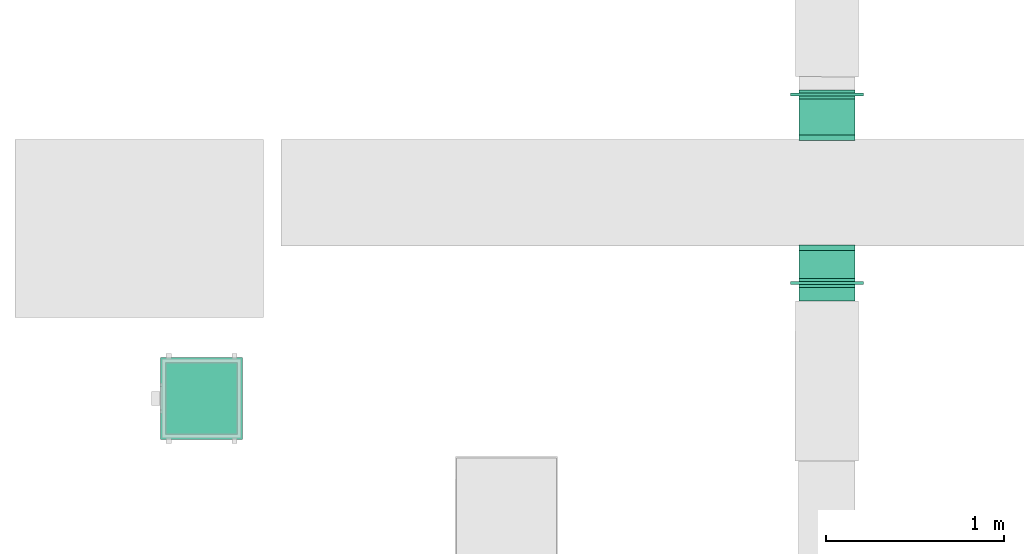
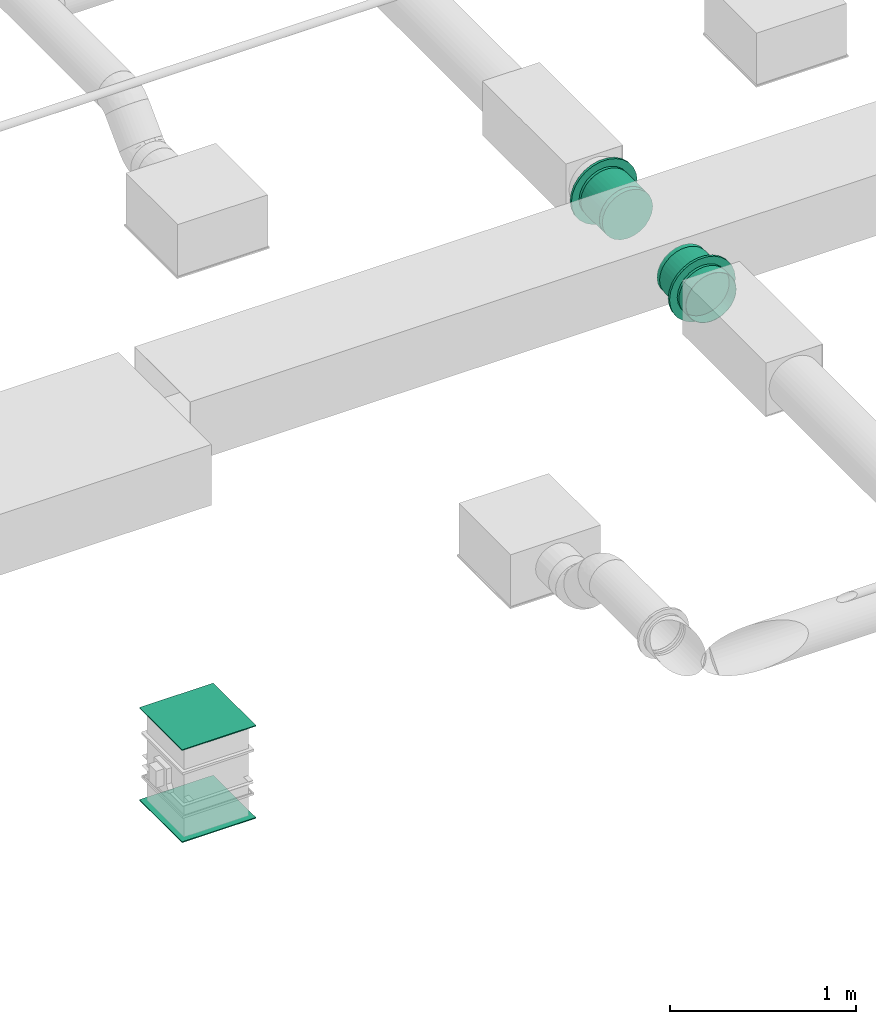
# One storey, part 24 of 63: 3 flow segments, 2 flow controllers, 2 flow fittings, 2 flow terminals.
"""IFC2X3 building model written with IfcOpenShell, lengths in millimetres."""

from ifc_helpers import new_model, entity, si_unit, converted_unit, derived_unit, direction, frame, origin_with_axes, origin_2d_with_axis, place, context, subcontext, project, spatial, hollow_circle, extrude, open_shell, surface_model, source, transform, mapped, type_object, element, save


model = new_model("IFC2X3")

# Units and contexts
model_context = context("Model", 3, precision=0.01, world=frame((0.0, 4.29681676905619e-09, 0.0)), true_north=direction((4.01073788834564e-13, 1.0)))
plan_context = context("Plan", 3, precision=0.01, world=frame((0.0, 4.29681676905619e-09, 0.0)), true_north=direction((4.01073788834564e-13, 1.0)))
body_context = subcontext(model_context, "Body", "Model", "MODEL_VIEW")
ifc_project = project(units=[converted_unit("PLANEANGLEUNIT", "DEGREE", entity("IfcPositiveLengthMeasure", 0.0174532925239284), si_unit("PLANEANGLEUNIT", "RADIAN"), dimensions=[0, 0, 0, 0, 0, 0, 0]), si_unit("AREAUNIT", "SQUARE_METRE"), si_unit("LENGTHUNIT", "METRE", prefix="MILLI"), si_unit("MASSUNIT", "GRAM", prefix="KILO"), si_unit("POWERUNIT", "WATT"), si_unit("PRESSUREUNIT", "PASCAL"), si_unit("FORCEUNIT", "NEWTON", prefix="KILO"), si_unit("ELECTRICVOLTAGEUNIT", "VOLT"), si_unit("ELECTRICCURRENTUNIT", "AMPERE"), si_unit("THERMODYNAMICTEMPERATUREUNIT", "DEGREE_CELSIUS"), si_unit("TIMEUNIT", "SECOND"), si_unit("VOLUMEUNIT", "CUBIC_METRE"), derived_unit("LINEARVELOCITYUNIT", [(si_unit("LENGTHUNIT", "METRE"), 1), (si_unit("TIMEUNIT", "SECOND"), -1)]), derived_unit("VOLUMETRICFLOWRATEUNIT", [(si_unit("VOLUMEUNIT", "CUBIC_METRE"), 1), (si_unit("TIMEUNIT", "SECOND"), -1)]), derived_unit("THERMALTRANSMITTANCEUNIT", [(si_unit("POWERUNIT", "WATT"), 1), (si_unit("THERMODYNAMICTEMPERATUREUNIT", "KELVIN"), -1), (si_unit("AREAUNIT", "SQUARE_METRE"), -1)]), derived_unit("SOUNDPRESSUREUNIT", [(si_unit("PRESSUREUNIT", "PASCAL"), 1)])], contexts=[model_context, plan_context])

# Site, building, storey
site_placement = place(None, frame((0.0, -4.29681676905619e-09, 0.0), z_axis=(0.0, 0.0, 1.0), x_axis=(1.0, 0.0, 0.0)))
site = spatial("IfcSite", under=ifc_project, at=site_placement, CompositionType="ELEMENT")
building_placement = place(site_placement, frame((0.0, 4.29681676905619e-09, 0.0), z_axis=(0.0, 0.0, 1.0), x_axis=(1.0, 0.0, 0.0)))
building = spatial("IfcBuilding", under=site, at=building_placement, Name="mc-building", CompositionType="ELEMENT")
storey_placement = place(building_placement, frame((0.0, 0.0, 210900.0), z_axis=(0.0, 0.0, 1.0), x_axis=(1.0, 0.0, 0.0)))
storey = spatial("IfcBuildingStorey", under=building, at=storey_placement, Name="Nivå F", CompositionType="ELEMENT", Elevation=210900.0)

# Flow controllers
damper_type = type_object("IfcDamperType", Name="IRIS-031", PredefinedType="BALANCINGDAMPER")
shared_shape_1 = source(origin_with_axes(), body_context, "Body", "SurfaceModel", [
    surface_model("IfcShellBasedSurfaceModel", [(26.0, 78.75, -136.39901), (26.0, 0.0, -157.5), (26.0, 40.764, -152.13332), (26.0, 111.36932, -111.36932), (26.0, -111.36932, -111.36932), (26.0, 152.13332, 40.764), (26.0, 152.13332, -40.764), (26.0, 136.39901, -78.75), (26.0, -78.75, -136.39901), (26.0, -40.764, -152.13332), (26.0, -152.13332, -40.764), (26.0, -136.39901, -78.75), (26.0, 0.0, 157.5), (26.0, 157.5, 0.0), (26.0, 136.39901, 78.75), (26.0, 111.36932, 111.36932), (26.0, 78.75, 136.39901), (26.0, 40.764, 152.13332), (26.0, -40.764, 152.13332), (26.0, -152.13332, 40.764), (26.0, -136.39901, 78.75), (26.0, -157.5, 0.0), (26.0, -78.75, 136.39901), (26.0, -111.36932, 111.36932), (7.8, 0.0, 157.5), (7.8, 40.764, 152.13332), (7.8, 78.75, 136.39901), (7.8, 152.13332, 40.764), (7.8, 111.36932, 111.36932), (7.8, 136.39901, 78.75), (7.8, -152.13332, 40.764), (7.8, -78.75, 136.39901), (7.8, -136.39901, 78.75), (7.8, -111.36932, 111.36932), (7.8, -40.764, 152.13332), (7.8, -111.36932, -111.36932), (7.8, -157.5, 0.0), (7.8, 152.13332, -40.764), (7.8, 111.36932, -111.36932), (7.8, 136.39901, -78.75), (7.8, -78.75, -136.39901), (7.8, 78.75, -136.39901), (7.8, 0.0, -157.5), (7.8, 40.764, -152.13332), (7.8, -136.39901, -78.75), (7.8, -152.13332, -40.764), (7.8, -40.764, -152.13332), (7.8, 157.5, 0.0), (7.8, 116.45328, -168.71169), (7.8, -24.71002, -203.50531), (7.8, 72.694, -191.67833), (7.8, 181.51848, -95.26825), (7.8, 153.4447, -135.94015), (7.8, 199.04307, -49.05971), (7.8, 205.0, 0.0), (7.8, 199.04307, 49.05971), (7.8, -116.45328, 168.71169), (7.8, -181.51848, -95.26825), (7.8, -116.45328, -168.71169), (7.8, -72.694, -191.67833), (7.8, 24.71002, -203.50531), (7.8, -153.4447, -135.94015), (7.8, -205.0, 0.0), (7.8, -199.04307, -49.05971), (7.8, 181.51848, 95.26825), (7.8, 153.4447, 135.94015), (7.8, 116.45328, 168.71169), (7.8, 72.694, 191.67833), (7.8, 24.71002, 203.50531), (7.8, -24.71002, 203.50531), (7.8, -181.51848, 95.26825), (7.8, -199.04307, 49.05971), (7.8, -153.4447, 135.94015), (7.8, -72.694, 191.67833), (-7.8, 24.71002, 203.50531), (-7.8, 72.694, 191.67833), (-7.8, 116.45328, 168.71169), (-7.8, -24.71002, 203.50531), (-7.8, 153.4447, 135.94015), (-7.8, 181.51848, 95.26825), (-7.8, 199.04307, 49.05971), (-7.8, -116.45328, 168.71169), (-7.8, -72.694, 191.67833), (-7.8, -181.51848, 95.26825), (-7.8, -153.4447, 135.94015), (-7.8, -205.0, 0.0), (-7.8, -199.04307, 49.05971), (-7.8, 205.0, 0.0), (-7.8, 199.04307, -49.05971), (-7.8, 181.51848, -95.26825), (-7.8, 116.45328, -168.71169), (-7.8, -116.45328, -168.71169), (-7.8, 153.4447, -135.94015), (-7.8, -24.71002, -203.50531), (-7.8, 72.694, -191.67833), (-7.8, -181.51848, -95.26825), (-7.8, -153.4447, -135.94015), (-7.8, -199.04307, -49.05971), (-7.8, -72.694, -191.67833), (-7.8, 24.71002, -203.50531), (-7.8, 78.75, -136.39901), (-7.8, 0.0, -157.5), (-7.8, 40.764, -152.13332), (-7.8, 111.36932, -111.36932), (-7.8, -111.36932, -111.36932), (-7.8, 152.13332, 40.764), (-7.8, 152.13332, -40.764), (-7.8, 136.39901, -78.75), (-7.8, -78.75, -136.39901), (-7.8, -40.764, -152.13332), (-7.8, -152.13332, -40.764), (-7.8, -136.39901, -78.75), (-7.8, 0.0, 157.5), (-7.8, 157.5, 0.0), (-7.8, 136.39901, 78.75), (-7.8, 111.36932, 111.36932), (-7.8, 78.75, 136.39901), (-7.8, 40.764, 152.13332), (-7.8, -40.764, 152.13332), (-7.8, -152.13332, 40.764), (-7.8, -136.39901, 78.75), (-7.8, -157.5, 0.0), (-7.8, -78.75, 136.39901), (-7.8, -111.36932, 111.36932), (-26.0, 0.0, 157.5), (-26.0, 40.764, 152.13332), (-26.0, 78.75, 136.39901), (-26.0, 152.13332, 40.764), (-26.0, 111.36932, 111.36932), (-26.0, 136.39901, 78.75), (-26.0, -152.13332, 40.764), (-26.0, -78.75, 136.39901), (-26.0, -136.39901, 78.75), (-26.0, -111.36932, 111.36932), (-26.0, -40.764, 152.13332), (-26.0, -111.36932, -111.36932), (-26.0, -157.5, 0.0), (-26.0, 152.13332, -40.764), (-26.0, 111.36932, -111.36932), (-26.0, 136.39901, -78.75), (-26.0, -78.75, -136.39901), (-26.0, 78.75, -136.39901), (-26.0, 0.0, -157.5), (-26.0, 40.764, -152.13332), (-26.0, -136.39901, -78.75), (-26.0, -152.13332, -40.764), (-26.0, -40.764, -152.13332), (-26.0, 157.5, 0.0)], [open_shell([[[0, 1, 2]], [[3, 4, 0]], [[5, 4, 3]], [[6, 3, 7]], [[5, 3, 6]], [[1, 8, 9]], [[1, 0, 8]], [[4, 10, 11]], [[8, 0, 4]], [[4, 12, 10]], [[6, 13, 5]], [[5, 14, 15]], [[5, 15, 16]], [[16, 17, 12]], [[16, 12, 5]], [[12, 18, 10]], [[19, 18, 20]], [[19, 21, 10]], [[20, 22, 23]], [[22, 20, 18]], [[18, 19, 10]], [[4, 5, 12]], [[24, 25, 26]], [[24, 26, 27]], [[28, 29, 27]], [[28, 27, 26]], [[24, 27, 30]], [[31, 32, 33]], [[32, 31, 34]], [[34, 30, 32]], [[34, 24, 30]], [[30, 35, 36]], [[30, 27, 35]], [[27, 37, 35]], [[38, 37, 39]], [[40, 38, 41]], [[37, 38, 40]], [[42, 41, 43]], [[36, 44, 45]], [[35, 44, 36]], [[40, 42, 46]], [[40, 35, 37]], [[42, 40, 41]], [[37, 27, 47]], [[45, 10, 36]], [[44, 11, 45]], [[8, 35, 40]], [[44, 35, 4]], [[9, 40, 46]], [[45, 11, 10]], [[10, 21, 36]], [[9, 8, 40]], [[4, 35, 8]], [[4, 11, 44]], [[1, 9, 46]], [[46, 42, 1]], [[43, 2, 42]], [[41, 0, 43]], [[7, 38, 39]], [[41, 38, 3]], [[6, 39, 37]], [[41, 3, 0]], [[0, 2, 43]], [[13, 6, 37]], [[7, 39, 6]], [[7, 3, 38]], [[47, 13, 37]], [[42, 2, 1]], [[27, 5, 47]], [[29, 14, 27]], [[16, 28, 26]], [[29, 28, 15]], [[17, 26, 25]], [[27, 14, 5]], [[5, 13, 47]], [[17, 16, 26]], [[15, 28, 16]], [[15, 14, 29]], [[12, 17, 25]], [[25, 24, 12]], [[18, 24, 34]], [[20, 32, 30]], [[32, 23, 33]], [[19, 30, 36]], [[34, 22, 18]], [[22, 34, 31]], [[22, 31, 23]], [[31, 33, 23]], [[32, 20, 23]], [[19, 20, 30]], [[36, 21, 19]], [[24, 18, 12]], [[48, 49, 50]], [[51, 48, 52]], [[51, 53, 54]], [[48, 51, 55]], [[56, 57, 48]], [[49, 58, 59]], [[49, 60, 50]], [[61, 58, 57]], [[58, 49, 48]], [[58, 48, 57]], [[57, 62, 63]], [[54, 55, 51]], [[55, 64, 65]], [[55, 65, 66]], [[66, 67, 68]], [[55, 66, 56]], [[69, 66, 68]], [[62, 70, 71]], [[70, 62, 72]], [[73, 56, 66]], [[72, 62, 56]], [[57, 56, 62]], [[69, 73, 66]], [[56, 48, 55]], [[74, 75, 76]], [[77, 74, 76]], [[78, 79, 80]], [[78, 80, 76]], [[81, 76, 80]], [[76, 82, 77]], [[76, 81, 82]], [[83, 84, 85]], [[85, 86, 83]], [[84, 81, 85]], [[80, 85, 81]], [[80, 87, 85]], [[87, 88, 89]], [[87, 89, 90]], [[87, 90, 91]], [[90, 89, 92]], [[93, 90, 94]], [[95, 91, 96]], [[97, 85, 95]], [[91, 95, 87]], [[98, 91, 93]], [[90, 93, 91]], [[99, 93, 94]], [[95, 85, 87]], [[97, 63, 85]], [[95, 57, 97]], [[58, 96, 91]], [[91, 98, 59]], [[95, 96, 61]], [[93, 49, 98]], [[97, 57, 63]], [[63, 62, 85]], [[59, 58, 91]], [[61, 96, 58]], [[61, 57, 95]], [[49, 59, 98]], [[93, 60, 49]], [[94, 50, 99]], [[90, 48, 94]], [[89, 88, 51]], [[90, 92, 52]], [[88, 87, 53]], [[92, 89, 52]], [[94, 48, 50]], [[50, 60, 99]], [[51, 52, 89]], [[53, 51, 88]], [[87, 54, 53]], [[52, 48, 90]], [[99, 60, 93]], [[80, 55, 87]], [[79, 64, 80]], [[66, 78, 76]], [[76, 75, 67]], [[79, 78, 65]], [[74, 68, 75]], [[80, 64, 55]], [[55, 54, 87]], [[67, 66, 76]], [[65, 78, 66]], [[65, 64, 79]], [[68, 67, 75]], [[74, 69, 68]], [[73, 82, 81]], [[77, 82, 69]], [[83, 86, 70]], [[72, 84, 83]], [[56, 81, 84]], [[71, 86, 85]], [[73, 69, 82]], [[73, 81, 56]], [[56, 84, 72]], [[83, 70, 72]], [[71, 70, 86]], [[62, 71, 85]], [[77, 69, 74]], [[100, 101, 102]], [[103, 104, 100]], [[105, 104, 103]], [[106, 103, 107]], [[105, 103, 106]], [[101, 108, 109]], [[101, 100, 108]], [[104, 110, 111]], [[108, 100, 104]], [[104, 112, 110]], [[106, 113, 105]], [[105, 114, 115]], [[105, 115, 116]], [[116, 117, 112]], [[116, 112, 105]], [[112, 118, 110]], [[119, 118, 120]], [[119, 121, 110]], [[120, 122, 123]], [[122, 120, 118]], [[118, 119, 110]], [[104, 105, 112]], [[124, 125, 126]], [[124, 126, 127]], [[128, 129, 127]], [[128, 127, 126]], [[124, 127, 130]], [[131, 132, 133]], [[132, 131, 134]], [[134, 130, 132]], [[134, 124, 130]], [[130, 135, 136]], [[130, 127, 135]], [[127, 137, 135]], [[138, 137, 139]], [[140, 138, 141]], [[137, 138, 140]], [[142, 141, 143]], [[136, 144, 145]], [[135, 144, 136]], [[140, 142, 146]], [[140, 135, 137]], [[142, 140, 141]], [[137, 127, 147]], [[145, 110, 136]], [[144, 111, 145]], [[108, 135, 140]], [[144, 135, 104]], [[109, 140, 146]], [[145, 111, 110]], [[110, 121, 136]], [[109, 108, 140]], [[104, 135, 108]], [[104, 111, 144]], [[101, 109, 146]], [[146, 142, 101]], [[143, 102, 142]], [[141, 100, 143]], [[107, 138, 139]], [[141, 138, 103]], [[106, 139, 137]], [[141, 103, 100]], [[100, 102, 143]], [[113, 106, 137]], [[107, 139, 106]], [[107, 103, 138]], [[147, 113, 137]], [[142, 102, 101]], [[127, 105, 147]], [[129, 114, 127]], [[116, 128, 126]], [[129, 128, 115]], [[117, 126, 125]], [[127, 114, 105]], [[105, 113, 147]], [[117, 116, 126]], [[115, 128, 116]], [[115, 114, 129]], [[112, 117, 125]], [[125, 124, 112]], [[118, 124, 134]], [[120, 132, 130]], [[132, 123, 133]], [[119, 130, 136]], [[134, 122, 118]], [[122, 134, 131]], [[122, 131, 123]], [[131, 133, 123]], [[132, 120, 123]], [[119, 120, 130]], [[136, 121, 119]], [[124, 118, 112]]])]),
])
for number, where, z_axis, x_axis, name in (
    (1, (525102.68782, 455662.25549, 4200.0), (0.0, 0.0, 1.0), (0.000647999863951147, 0.999999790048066, 0.0), "IRIS-031"),
    (2, (525102.71745, 456720.6534, 4200.0), (0.0, 0.0, 1.0), (-0.000647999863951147, -0.999999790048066, 0.0), "IRIS-031"),
):
    element("IfcFlowController", number, at=place(storey_placement, frame(where, z_axis=z_axis, x_axis=x_axis)), inside=storey, type_object=damper_type, Name=name, context=body_context, shape_type="MappedRepresentation", body=[
        mapped(shared_shape_1, transform((0.0, 0.0, 0.0), scale=1.0)),
    ])

# Flow fittings
duct_fitting_type = type_object("IfcDuctFittingType", Name="magicirc_tapoutlet_001", PredefinedType="CONNECTOR")
shared_shape_2 = source(origin_with_axes(), body_context, "Body", "SurfaceModel", [
    surface_model("IfcShellBasedSurfaceModel", [(25.0, 40.764, -152.13332), (25.0, 157.5, 0.0), (25.0, 0.0, -157.5), (25.0, 78.75, -136.39901), (25.0, 136.39901, -78.75), (25.0, 111.36932, -111.36932), (25.0, -111.36932, -111.36932), (25.0, -152.13332, 40.764), (25.0, -78.75, -136.39901), (25.0, -40.764, -152.13332), (25.0, -136.39901, -78.75), (25.0, -152.13332, -40.764), (25.0, -157.5, 0.0), (25.0, 152.13332, -40.764), (25.0, 152.13332, 40.764), (25.0, 111.36932, 111.36932), (25.0, 136.39901, 78.75), (25.0, 78.75, 136.39901), (25.0, 40.764, 152.13332), (25.0, -111.36932, 111.36932), (25.0, -136.39901, 78.75), (25.0, -78.75, 136.39901), (25.0, -40.764, 152.13332), (25.0, 0.0, 157.5), (0.0, 0.0, 157.5), (0.0, 40.764, 152.13332), (0.0, 78.75, 136.39901), (0.0, 111.36932, 111.36932), (0.0, 136.39901, 78.75), (0.0, 152.13332, 40.764), (0.0, 157.5, 0.0), (0.0, 152.13332, -40.764), (0.0, 136.39901, -78.75), (0.0, 111.36932, -111.36932), (0.0, 0.0, -157.5), (0.0, 78.75, -136.39901), (0.0, 40.764, -152.13332), (0.0, -40.764, -152.13332), (0.0, -78.75, -136.39901), (0.0, -111.36932, -111.36932), (0.0, -136.39901, -78.75), (0.0, -152.13332, -40.764), (0.0, -157.5, 0.0), (0.0, -152.13332, 40.764), (0.0, -136.39901, 78.75), (0.0, -111.36932, 111.36932), (0.0, -78.75, 136.39901), (0.0, -40.764, 152.13332), (-6.096, 0.0, -157.5), (-6.096, -40.764, -152.13332), (-6.096, 40.764, -152.13332), (-6.096, 152.13332, 40.764), (-6.096, 78.75, -136.39901), (-6.096, 111.36932, -111.36932), (-6.096, 136.39901, -78.75), (-6.096, -157.5, 0.0), (-6.096, -152.13332, 40.764), (-6.096, -111.36932, -111.36932), (-6.096, -78.75, -136.39901), (-6.096, -152.13332, -40.764), (-6.096, -136.39901, -78.75), (-6.096, 152.13332, -40.764), (-6.096, 111.36932, 111.36932), (-6.096, 136.39901, 78.75), (-6.096, 40.764, 152.13332), (-6.096, 78.75, 136.39901), (-6.096, 0.0, 157.5), (-6.096, -111.36932, 111.36932), (-6.096, -136.39901, 78.75), (-6.096, -40.764, 152.13332), (-6.096, -78.75, 136.39901), (-6.096, 157.5, 0.0)], [open_shell([[[0, 1, 2]], [[3, 1, 0]], [[4, 1, 5]], [[5, 1, 3]], [[6, 2, 7]], [[2, 6, 8]], [[8, 9, 2]], [[10, 7, 11]], [[7, 10, 6]], [[11, 7, 12]], [[13, 1, 4]], [[2, 14, 15]], [[15, 14, 16]], [[17, 18, 2]], [[2, 15, 17]], [[2, 18, 19]], [[20, 7, 2]], [[19, 20, 2]], [[18, 21, 19]], [[22, 21, 18]], [[18, 23, 22]], [[1, 14, 2]], [[24, 23, 18]], [[25, 18, 17]], [[24, 18, 25]], [[26, 15, 27]], [[26, 25, 17]], [[15, 26, 17]], [[28, 16, 14]], [[29, 14, 1]], [[27, 16, 28]], [[29, 28, 14]], [[30, 29, 1]], [[16, 27, 15]], [[30, 1, 13]], [[31, 13, 4]], [[30, 13, 31]], [[32, 5, 33]], [[32, 31, 4]], [[5, 32, 4]], [[0, 2, 34]], [[3, 0, 35]], [[35, 33, 3]], [[36, 35, 0]], [[0, 34, 36]], [[3, 33, 5]], [[34, 2, 9]], [[37, 9, 8]], [[34, 9, 37]], [[38, 6, 39]], [[38, 37, 8]], [[6, 38, 8]], [[40, 10, 11]], [[41, 11, 12]], [[39, 10, 40]], [[41, 40, 11]], [[42, 41, 12]], [[10, 39, 6]], [[42, 12, 7]], [[43, 7, 20]], [[42, 7, 43]], [[44, 19, 45]], [[44, 43, 20]], [[19, 44, 20]], [[46, 21, 22]], [[47, 22, 23]], [[45, 21, 46]], [[47, 46, 22]], [[24, 47, 23]], [[21, 45, 19]], [[0, 14, 2]], [[14, 15, 2]], [[0, 1, 14]], [[48, 49, 50]], [[50, 51, 52]], [[53, 51, 54]], [[52, 51, 53]], [[50, 55, 56]], [[57, 55, 58]], [[50, 49, 58]], [[59, 55, 60]], [[57, 60, 55]], [[58, 55, 50]], [[61, 54, 51]], [[51, 50, 62]], [[63, 51, 62]], [[50, 64, 65]], [[65, 62, 50]], [[66, 64, 50]], [[67, 66, 68]], [[50, 56, 68]], [[69, 66, 70]], [[67, 70, 66]], [[50, 68, 66]], [[71, 61, 51]], [[66, 24, 25]], [[64, 25, 26]], [[66, 25, 64]], [[65, 27, 62]], [[65, 64, 26]], [[27, 65, 26]], [[63, 28, 29]], [[51, 29, 30]], [[62, 28, 63]], [[51, 63, 29]], [[71, 51, 30]], [[28, 62, 27]], [[71, 30, 31]], [[61, 31, 32]], [[71, 31, 61]], [[54, 33, 53]], [[54, 61, 32]], [[33, 54, 32]], [[36, 34, 48]], [[35, 36, 52]], [[52, 53, 35]], [[50, 52, 36]], [[36, 48, 50]], [[35, 53, 33]], [[48, 34, 37]], [[49, 37, 38]], [[48, 37, 49]], [[58, 39, 57]], [[58, 49, 38]], [[39, 58, 38]], [[60, 40, 41]], [[59, 41, 42]], [[57, 40, 60]], [[59, 60, 41]], [[55, 59, 42]], [[40, 57, 39]], [[55, 42, 43]], [[56, 43, 44]], [[55, 43, 56]], [[68, 45, 67]], [[68, 56, 44]], [[45, 68, 44]], [[70, 46, 47]], [[69, 47, 24]], [[67, 46, 70]], [[69, 70, 47]], [[66, 69, 24]], [[46, 67, 45]]])]),
])
flow_fitting_1_placement = place(storey_placement, frame((525102.70466, 455869.0, 4200.0), z_axis=(0.0, 0.0, -1.0), x_axis=(0.0, -1.0, 0.0)))
element("IfcFlowFitting", 3, at=flow_fitting_1_placement, inside=storey, type_object=duct_fitting_type, Name="magicirc_tapoutlet_001", context=body_context, shape_type="MappedRepresentation", body=[
    mapped(shared_shape_2, transform((0.0, 0.0, 0.0), scale=1.0)),
])
shared_shape_3 = source(origin_with_axes(), body_context, "Body", "SurfaceModel", [
    surface_model("IfcShellBasedSurfaceModel", [(25.0, 111.36932, -111.36932), (25.0, 157.5, 0.0), (25.0, 78.75, -136.39901), (25.0, 152.13332, -40.764), (25.0, 136.39901, -78.75), (25.0, 40.764, -152.13332), (25.0, 0.0, -157.5), (0.0, 0.0, -157.5), (25.0, -40.764, -152.13332), (25.0, -152.13332, 40.764), (25.0, -78.75, -136.39901), (25.0, -111.36932, -111.36932), (25.0, -136.39901, -78.75), (25.0, 152.13332, 40.764), (25.0, -152.13332, -40.764), (25.0, -111.36932, 111.36932), (25.0, -136.39901, 78.75), (25.0, -40.764, 152.13332), (25.0, -78.75, 136.39901), (25.0, 0.0, 157.5), (25.0, 111.36932, 111.36932), (25.0, 136.39901, 78.75), (25.0, 40.764, 152.13332), (25.0, 78.75, 136.39901), (25.0, -157.5, 0.0), (0.0, 0.0, 157.5), (0.0, -40.764, 152.13332), (0.0, -111.36932, 111.36932), (0.0, -78.75, 136.39901), (0.0, -136.39901, 78.75), (0.0, -152.13332, 40.764), (0.0, -157.5, 0.0), (0.0, -152.13332, -40.764), (0.0, -111.36932, -111.36932), (0.0, -136.39901, -78.75), (0.0, -78.75, -136.39901), (0.0, -40.764, -152.13332), (0.0, 40.764, -152.13332), (0.0, 111.36932, -111.36932), (0.0, 78.75, -136.39901), (0.0, 136.39901, -78.75), (0.0, 152.13332, -40.764), (0.0, 157.5, 0.0), (0.0, 152.13332, 40.764), (0.0, 111.36932, 111.36932), (0.0, 136.39901, 78.75), (0.0, 78.75, 136.39901), (0.0, 40.764, 152.13332), (-6.096, -111.36932, -111.36932), (-6.096, -157.5, 0.0), (-6.096, -78.75, -136.39901), (-6.096, -152.13332, -40.764), (-6.096, -136.39901, -78.75), (-6.096, 0.0, -157.5), (-6.096, -40.764, -152.13332), (-6.096, 111.36932, -111.36932), (-6.096, 152.13332, 40.764), (-6.096, 78.75, -136.39901), (-6.096, 40.764, -152.13332), (-6.096, 136.39901, -78.75), (-6.096, 152.13332, -40.764), (-6.096, 157.5, 0.0), (-6.096, -152.13332, 40.764), (-6.096, -111.36932, 111.36932), (-6.096, -136.39901, 78.75), (-6.096, -78.75, 136.39901), (-6.096, -40.764, 152.13332), (-6.096, 111.36932, 111.36932), (-6.096, 136.39901, 78.75), (-6.096, 78.75, 136.39901), (-6.096, 40.764, 152.13332), (-6.096, 0.0, 157.5)], [open_shell([[[0, 1, 2]], [[3, 1, 4]], [[5, 6, 7]], [[7, 6, 8]], [[6, 5, 8]], [[8, 9, 10]], [[11, 9, 12]], [[10, 9, 11]], [[8, 1, 13]], [[8, 5, 2]], [[0, 4, 1]], [[2, 1, 8]], [[14, 12, 9]], [[9, 8, 15]], [[16, 9, 15]], [[8, 17, 18]], [[18, 15, 8]], [[19, 17, 8]], [[20, 19, 21]], [[8, 13, 21]], [[22, 19, 23]], [[20, 23, 19]], [[8, 21, 19]], [[24, 14, 9]], [[17, 19, 25]], [[18, 17, 26]], [[26, 17, 25]], [[27, 15, 28]], [[18, 26, 28]], [[18, 28, 15]], [[9, 16, 29]], [[24, 9, 30]], [[29, 16, 27]], [[9, 29, 30]], [[24, 30, 31]], [[15, 27, 16]], [[14, 24, 31]], [[12, 14, 32]], [[32, 14, 31]], [[33, 11, 34]], [[12, 32, 34]], [[12, 34, 11]], [[35, 8, 10]], [[10, 33, 35]], [[8, 35, 36]], [[36, 7, 8]], [[11, 33, 10]], [[2, 5, 37]], [[37, 5, 7]], [[38, 0, 39]], [[2, 37, 39]], [[2, 39, 0]], [[3, 4, 40]], [[1, 3, 41]], [[40, 4, 38]], [[3, 40, 41]], [[1, 41, 42]], [[0, 38, 4]], [[13, 1, 42]], [[21, 13, 43]], [[43, 13, 42]], [[44, 20, 45]], [[21, 43, 45]], [[21, 45, 20]], [[22, 23, 46]], [[19, 22, 47]], [[46, 23, 44]], [[22, 46, 47]], [[19, 47, 25]], [[20, 44, 23]], [[8, 15, 9]], [[15, 8, 18]], [[8, 19, 17]], [[48, 49, 50]], [[51, 49, 52]], [[37, 7, 53]], [[53, 7, 36]], [[54, 49, 53]], [[50, 49, 54]], [[52, 49, 48]], [[55, 53, 56]], [[53, 55, 57]], [[57, 58, 53]], [[59, 56, 60]], [[56, 59, 55]], [[60, 56, 61]], [[53, 62, 63]], [[63, 62, 64]], [[65, 66, 53]], [[53, 63, 65]], [[53, 66, 67]], [[68, 56, 53]], [[67, 68, 53]], [[66, 69, 67]], [[70, 69, 66]], [[66, 71, 70]], [[49, 62, 53]], [[26, 25, 71]], [[28, 26, 66]], [[66, 26, 71]], [[63, 27, 65]], [[28, 66, 65]], [[28, 65, 27]], [[30, 29, 64]], [[31, 30, 62]], [[64, 29, 63]], [[30, 64, 62]], [[31, 62, 49]], [[27, 63, 29]], [[32, 31, 49]], [[34, 32, 51]], [[51, 32, 49]], [[48, 33, 52]], [[34, 51, 52]], [[34, 52, 33]], [[50, 36, 35]], [[35, 48, 50]], [[36, 50, 54]], [[54, 53, 36]], [[33, 48, 35]], [[39, 37, 58]], [[58, 37, 53]], [[55, 38, 57]], [[39, 58, 57]], [[39, 57, 38]], [[41, 40, 59]], [[42, 41, 60]], [[59, 40, 55]], [[41, 59, 60]], [[42, 60, 61]], [[38, 55, 40]], [[43, 42, 61]], [[45, 43, 56]], [[56, 43, 61]], [[67, 44, 68]], [[45, 56, 68]], [[45, 68, 44]], [[47, 46, 69]], [[25, 47, 70]], [[69, 46, 67]], [[47, 69, 70]], [[25, 70, 71]], [[44, 67, 46]], [[62, 63, 53]], [[53, 49, 62]]])]),
])
flow_fitting_2_placement = place(storey_placement, frame((525102.70061, 456469.0, 4200.0), z_axis=(0.0, 0.0, -1.0), x_axis=(0.0, 1.0, 0.0)))
element("IfcFlowFitting", 4, at=flow_fitting_2_placement, inside=storey, type_object=duct_fitting_type, Name="magicirc_tapoutlet_001", context=body_context, shape_type="MappedRepresentation", body=[
    mapped(shared_shape_3, transform((0.0, 0.0, 0.0), scale=1.0)),
])

# Flow segments
duct_segment_type = type_object("IfcDuctSegmentType", Name="KK002T - Spiro kanaler, Forsinket stål, korte bend", PredefinedType="RIGIDSEGMENT")
shared_shape_4 = source(origin_with_axes(), body_context, "Body", "SweptSolid", [
    extrude(hollow_circle(Radius=157.5, WallThickness=2.0, at=origin_2d_with_axis()), frame((0.0, 0.0, 0.0), z_axis=(1.0, 0.0, 0.0), x_axis=(0.0, 1.0, 0.0)), (0.0, 0.0, 1.0), 73.9),
])
flow_segment_1_placement = place(storey_placement, frame((525102.62311, 455562.35378, 4200.0), z_axis=(0.0, 0.0, 1.0), x_axis=(0.000647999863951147, 0.999999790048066, 0.0)))
element("IfcFlowSegment", 5, at=flow_segment_1_placement, inside=storey, type_object=duct_segment_type, Name="KK002T - Spiro kanaler, Forsinket stål, korte bend", context=body_context, shape_type="MappedRepresentation", body=[
    mapped(shared_shape_4, transform((0.0, 0.0, 0.0), scale=1.0)),
])
shared_shape_5 = source(origin_with_axes(), body_context, "Body", "SweptSolid", [
    extrude(hollow_circle(Radius=157.5, WallThickness=2.0, at=origin_2d_with_axis()), frame((0.0, 0.0, 0.0), z_axis=(1.0, 0.0, 0.0), x_axis=(0.0, 1.0, 0.0)), (0.0, 0.0, 1.0), 155.7),
])
flow_segment_2_placement = place(storey_placement, frame((525102.70466, 455688.25548, 4200.0), z_axis=(0.0, 0.0, 1.0), x_axis=(0.0, 1.0, 0.0)))
element("IfcFlowSegment", 6, at=flow_segment_2_placement, inside=storey, type_object=duct_segment_type, Name="KK002T - Spiro kanaler, Forsinket stål, korte bend", context=body_context, shape_type="MappedRepresentation", body=[
    mapped(shared_shape_5, transform((0.0, 0.0, 0.0), scale=1.0)),
])
shared_shape_6 = source(origin_with_axes(), body_context, "Body", "SweptSolid", [
    extrude(hollow_circle(Radius=157.5, WallThickness=2.0, at=origin_2d_with_axis()), frame((0.0, 0.0, 0.0), z_axis=(1.0, 0.0, 0.0), x_axis=(0.0, 1.0, 0.0)), (0.0, 0.0, 1.0), 200.7),
])
flow_segment_3_placement = place(storey_placement, frame((525102.70061, 456694.65341, 4200.0), z_axis=(0.0, 0.0, 1.0), x_axis=(0.0, -1.0, 0.0)))
element("IfcFlowSegment", 7, at=flow_segment_3_placement, inside=storey, type_object=duct_segment_type, Name="KK002T - Spiro kanaler, Forsinket stål, korte bend", context=body_context, shape_type="MappedRepresentation", body=[
    mapped(shared_shape_6, transform((0.0, 0.0, 0.0), scale=1.0)),
])

# Flow terminals
air_terminal_type = type_object("IfcAirTerminalType", Name="BRTR-400-400", PredefinedType="NOTDEFINED")
shared_shape_7 = source(origin_with_axes(), body_context, "Body", "SurfaceModel", [
    surface_model("IfcShellBasedSurfaceModel", [(0.0, -230.0, 230.0), (6.0, -230.0, 230.0), (6.0, 230.0, 230.0), (0.0, 230.0, 230.0), (0.0, 230.0, -230.0), (6.0, 230.0, -230.0), (6.0, -230.0, -230.0), (0.0, -230.0, -230.0)], [open_shell([[[0, 1, 2]], [[2, 3, 0]], [[4, 5, 6]], [[6, 7, 4]], [[2, 1, 6]], [[6, 5, 2]], [[3, 2, 5]], [[5, 4, 3]], [[0, 3, 4]], [[4, 7, 0]], [[1, 0, 7]], [[7, 6, 1]]])]),
])
for number, where, z_axis, x_axis in (
    (8, (521591.3203, 455014.4619, 2400.0), (-1.0, 0.0, 0.0), (0.0, 0.0, -1.0)),
    (9, (521591.3203, 455014.4619, 3000.0), (-1.0, 0.0, 0.0), (0.0, 0.0, 1.0)),
):
    element("IfcFlowTerminal", number, at=place(storey_placement, frame(where, z_axis=z_axis, x_axis=x_axis)), inside=storey, type_object=air_terminal_type, Name="BRTR-400-400", context=body_context, shape_type="MappedRepresentation", body=[
        mapped(shared_shape_7, transform((0.0, 0.0, 0.0), scale=1.0)),
    ])

save(model, "model.ifc")
